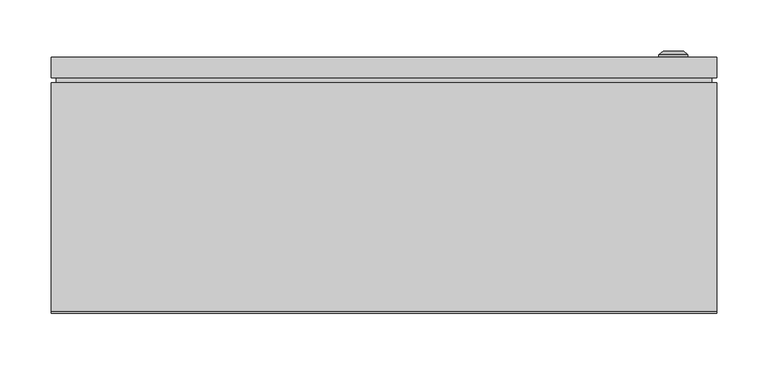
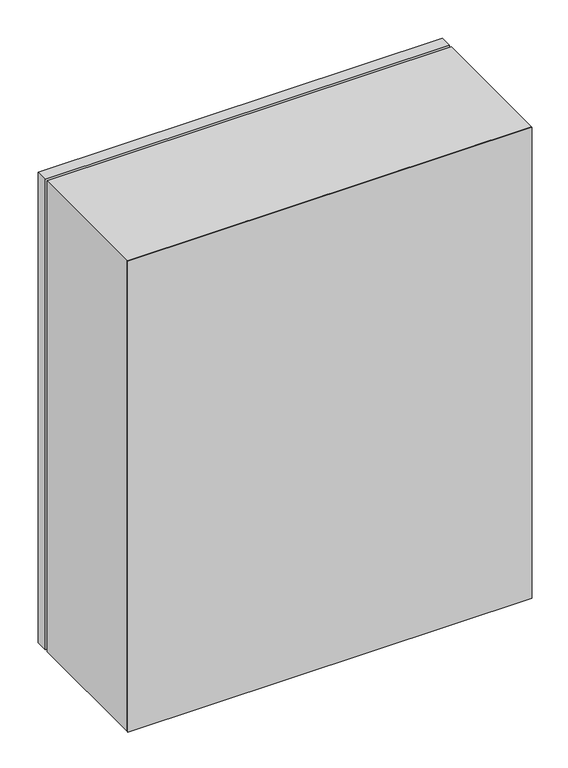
"""IFC4 building model written with IfcOpenShell, lengths in millimetres: proxy geometry, ЩМП_IP65 : ЩМП-4-0_800х650х250."""

from ifc_helpers import new_model, si_unit, frame, origin, origin_with_axes, place, context, project, spatial, polyline, circle_curve, outline, extrude, source, transform, mapped, element, save
from ifc_brep_helpers import plane_surface, cylinder_surface, revolved_surface, advanced_brep


def electrical_equipment_4ddad07a(model_context):
    return source(origin(), model_context, "Body", "SolidModel", [
        extrude(outline(polyline([(320.0, 225.0), (-320.0, 225.0), (-320.0, 230.0), (320.0, 230.0), (320.0, 225.0)])), frame((0.0, 0.0, 5.0), z_axis=(0.0, 0.0, 1.0), x_axis=(1.0, 0.0, 0.0)), (0.0, 0.0, 1.0), 790.0),
        extrude(outline(polyline([(325.0, 230.0), (-325.0, 230.0), (-325.0, 250.0), (325.0, 250.0), (325.0, 230.0)])), origin_with_axes(), (0.0, 0.0, 1.0), 800.0),
        advanced_brep(
        [(268.169873, 250.0, 400.0), (296.830127, 250.0, 400.0), (282.5, 250.0, 400.0), (268.169873, 252.366592, 400.0), (296.830127, 252.366592, 400.0), (272.5, 256.0, 400.0), (292.5, 256.0, 400.0), (280.6080471, 256.0, 400.0), (284.3919529, 256.0, 400.0), (280.6080471, 254.9822294, 400.0), (284.3919529, 254.9822294, 400.0), (282.5, 254.9822294, 400.0)],
        [
            (0, 1, circle_curve(frame((282.5, 250.0, 400.0), z_axis=(0.0, -1.0, 0.0), x_axis=(1.0, 0.0, 0.0)), 14.330127)),
            (1, 2),
            (2, 0),
            (1, 0, circle_curve(frame((282.5, 250.0, 400.0), z_axis=(0.0, -1.0, 0.0), x_axis=(1.0, 0.0, 0.0)), 14.330127)),
            (3, 4, circle_curve(frame((282.5, 252.366592, 400.0), z_axis=(0.0, -1.0, 0.0), x_axis=(1.0, 0.0, 0.0)), 14.330127)),
            (4, 1),
            (0, 3),
            (4, 3, circle_curve(frame((282.5, 252.366592, 400.0), z_axis=(0.0, -1.0, 0.0), x_axis=(1.0, 0.0, 0.0)), 14.330127)),
            (5, 6, circle_curve(frame((282.5, 256.0, 400.0), z_axis=(0.0, -1.0, 0.0), x_axis=(1.0, 0.0, 0.0)), 10.0)),
            (6, 4),
            (3, 5),
            (6, 5, circle_curve(frame((282.5, 256.0, 400.0), z_axis=(0.0, -1.0, 0.0), x_axis=(1.0, 0.0, 0.0)), 10.0)),
            (7, 8, circle_curve(frame((282.5, 256.0, 400.0), z_axis=(0.0, -1.0, 0.0), x_axis=(1.0, 0.0, 0.0)), 1.8919529)),
            (8, 6),
            (5, 7),
            (8, 7, circle_curve(frame((282.5, 256.0, 400.0), z_axis=(0.0, -1.0, 0.0), x_axis=(1.0, 0.0, 0.0)), 1.8919529)),
            (9, 10, circle_curve(frame((282.5, 254.9822294, 400.0), z_axis=(0.0, -1.0, 0.0), x_axis=(1.0, 0.0, 0.0)), 1.8919529)),
            (10, 8),
            (7, 9),
            (10, 9, circle_curve(frame((282.5, 254.9822294, 400.0), z_axis=(0.0, -1.0, 0.0), x_axis=(1.0, 0.0, 0.0)), 1.8919529)),
            (11, 10),
            (9, 11),
        ],
        [
            plane_surface(frame((282.5, 250.0, 400.0), z_axis=(0.0, -1.0, 0.0), x_axis=(1.0, 0.0, 0.0))),
            cylinder_surface(frame((282.5, 263.1348851, 400.0), z_axis=(0.0, 1.0, 0.0), x_axis=(1.0, 0.0, 0.0)), 14.330127),
            revolved_surface(polyline([(296.830127, 252.366592, 400.0), (292.5, 256.0, 400.0)]), (282.5, 263.1348851, 400.0), (0.0, 1.0, 0.0)),
            plane_surface(frame((282.5, 256.0, 400.0), z_axis=(0.0, 1.0, 0.0), x_axis=(1.0, 0.0, 0.0))),
            revolved_surface(polyline([(284.3919529, 256.0, 400.0), (284.3919529, 254.9822294, 400.0)]), (282.5, 263.1348851, 400.0), (0.0, 1.0, 0.0)),
            plane_surface(frame((282.5, 254.9822294, 400.0), z_axis=(0.0, 1.0, 0.0), x_axis=(1.0, 0.0, 0.0))),
        ],
        [
            (0, [[1, 2, 3]]),
            (0, [[4, -3, -2]]),
            (1, [[5, 6, -1, 7]]),
            (1, [[8, -7, -4, -6]]),
            (2, [[9, 10, -5, 11]]),
            (2, [[12, -11, -8, -10]]),
            (3, [[13, 14, -9, 15]]),
            (3, [[16, -15, -12, -14]]),
            (4, [[17, 18, -13, 19]]),
            (4, [[20, -19, -16, -18]]),
            (5, [[21, -17, 22]]),
            (5, [[-22, -20, -21]]),
        ],
    ),
        extrude(outline(polyline([(800.0, -325.0033905), (0.0, -325.0033905), (0.0, 324.9966095), (800.0, 324.9966095), (800.0, -325.0033905)]), holes=[polyline([(765.0, -292.5033905), (765.0, 292.4966095), (35.0, 292.4966095), (35.0, -292.5033905), (765.0, -292.5033905)])]), frame((0.0, 2.0, 0.0), z_axis=(0.0, 1.0, 0.0), x_axis=(0.0, 0.0, 1.0)), (0.0, 0.0, 1.0), 223.0),
        extrude(outline(polyline([(325.0, 0.0), (-325.0, 0.0), (-325.0, 2.0), (325.0, 2.0), (325.0, 0.0)])), origin_with_axes(), (0.0, 0.0, 1.0), 800.0),
    ])


if __name__ == "__main__":
    model = new_model("IFC4")
    model_context = context("Model", 3, world=origin())
    ifc_project = project(units=[si_unit("LENGTHUNIT", "METRE", prefix="MILLI")], contexts=[model_context])
    site = spatial("IfcSite", under=ifc_project)
    building = spatial("IfcBuilding", under=site)
    placement = place(None, origin())
    electrical_equipment_shape = electrical_equipment_4ddad07a(model_context)
    element("IfcBuildingElementProxy", 1, Name="ЩМП_IP65 : ЩМП-4-0_800х650х250", ObjectType="ЩМП_IP65 : ЩМП-4-0_800х650х250", at=placement, inside=building, context=model_context, shape_type="MappedRepresentation", body=[
        mapped(electrical_equipment_shape, transform((0.0, 0.0, 0.0), x_axis=(1.0, 0.0, 0.0), y_axis=(0.0, 1.0, 0.0), z_axis=(0.0, 0.0, 1.0))),
    ])
    save(model, "model.ifc")
